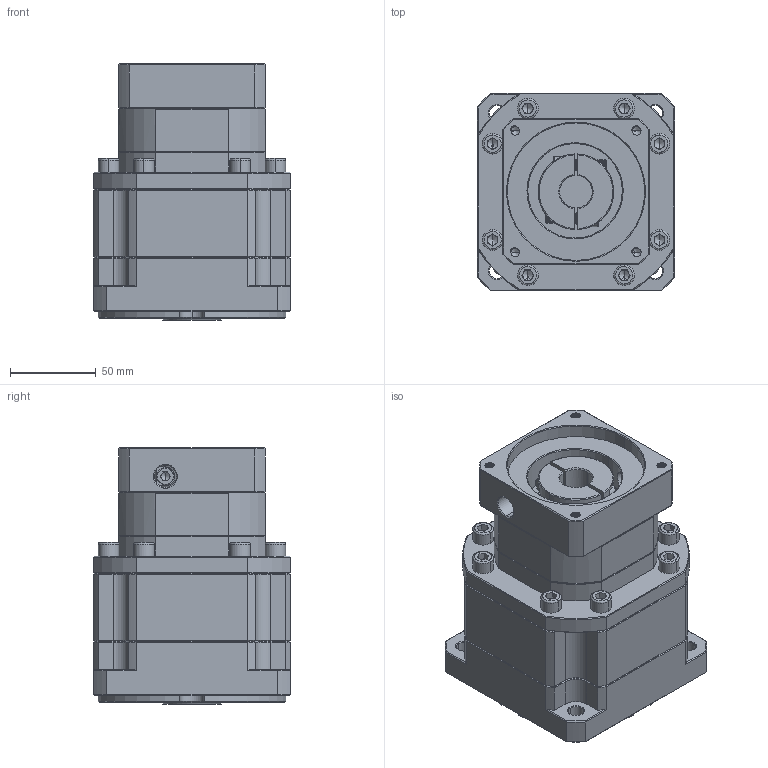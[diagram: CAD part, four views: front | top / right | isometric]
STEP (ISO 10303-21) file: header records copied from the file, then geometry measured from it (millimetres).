
FILE_DESCRIPTION (( 'STEP AP214' ), '1' );
FILE_NAME ('ZB115A-K25-L2-19-80-100-M6.step', '2023-03-03T09:58:10', ( '' ), ( 'Microsoft' ), 'SwSTEP 2.0', 'SolidWorks 2016', '' );
FILE_SCHEMA (( 'AUTOMOTIVE_DESIGN' ));
Length unit declared in the file: millimetre
Products named in the file (1): ZB115A-K25-L2-19-80-100-M6
Bounding box: 115 x 115 x 149 mm (x, y, z)
Volume: 1303586.8 mm3; surface area: 131396.6 mm2
Topology: 5 solids, 6 shells, 2081 faces, 5364 edges, 3380 vertices
Faces by surface type: plane 1003, cylinder 393, cone 350, bspline 320, torus 15
Entity records: 106996 total; most frequent: CARTESIAN_POINT 36179, ORIENTED_EDGE 10656, DIRECTION 8786, EDGE_CURVE 5328, VERTEX_POINT 3380, LINE 3366, VECTOR 3366, AXIS2_PLACEMENT_3D 2710
